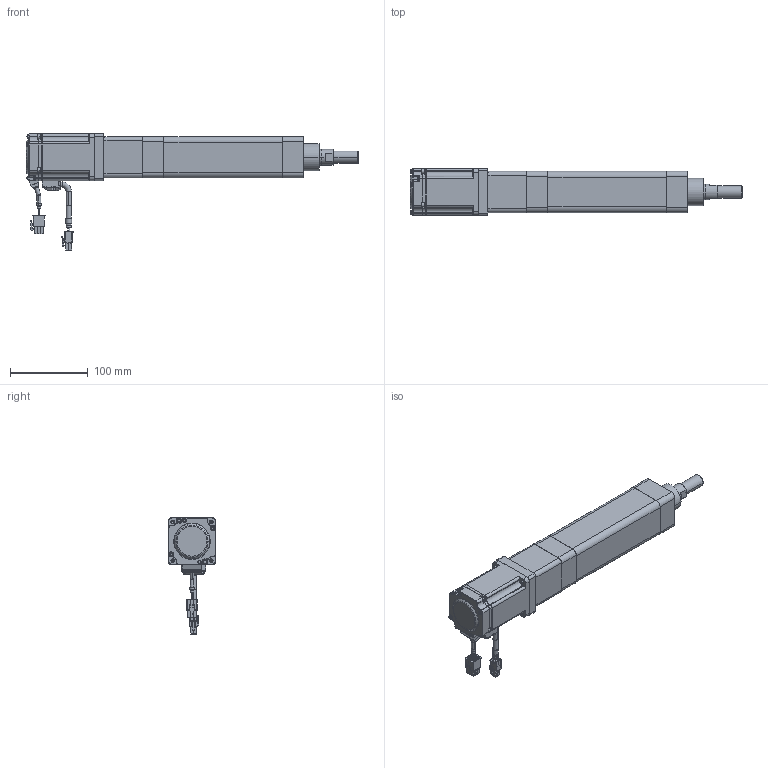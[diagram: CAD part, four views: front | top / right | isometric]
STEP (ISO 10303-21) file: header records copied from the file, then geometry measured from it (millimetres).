
FILE_DESCRIPTION (( 'STEP AP203' ), '1' );
FILE_NAME ('RKD40-D-FA-400W-B3.STEP', '2025-01-23T10:42:09', ( '' ), ( '' ), 'SwSTEP 2.0', 'SolidWorks 2024', '' );
FILE_SCHEMA (( 'CONFIG_CONTROL_DESIGN' ));
Length unit declared in the file: millimetre
Products named in the file (15): 复件 _MHMF042L1U2_1^复件 (2) 伺服电机60X60-400W_RKD40-D-FA-400W-B3; 复件 (2) 伺服电机60X60-400W^RKD40-D-FA-400W-B3; 复件 _Motor Connector_2_2^复件 (2) 伺服电机60X60-400W_RKD40-D-FA-400W-B3; 复件 联轴器座盖板040-017-1^RKD40-D-FA-400W-B3; 复件 _Cable Motor Top 04_2^复件 (2) 伺服电机60X60-400W_RKD40-D-FA-400W-B3; RKD40-D-FA-400W-B3; 复件 RKD-40-NEARCAP-PT^复件 RKD40-A_RKD40-D-FA-400W-B3; 复件 _MHMF Connector 9 Pin_A6_2^复件 (2) 伺服电机60X60-400W_RKD40-D-FA-400W-B3; 复件 _Cable Motor Bottom 04_2^复件 (2) 伺服电机60X60-400W_RKD40-D-FA-400W-B3; 复件 _Cable Brake Top 04_2^复件 (2) 伺服电机60X60-400W_RKD40-D-FA-400W-B3; 复件 _Cable Brake Bottom 04_2^复件 (2) 伺服电机60X60-400W_RKD40-D-FA-400W-B3; 复件 RKD-40-FARCAP-PT^复件 RKD40-A_RKD40-D-FA-400W-B3; 复件 联轴器座040-017-200W-400W^RKD40-D-FA-400W-B3; 复件 RKD-40-BASE-PT^复件 RKD40-A_RKD40-D-FA-400W-B3; 复件 RKD40-A^RKD40-D-FA-400W-B3
Assembly tree (14 placements, depth 3):
  RKD40-D-FA-400W-B3
    复件 RKD40-A^RKD40-D-FA-400W-B3
      复件 RKD-40-BASE-PT^复件 RKD40-A_RKD40-D-FA-400W-B3
      复件 RKD-40-FARCAP-PT^复件 RKD40-A_RKD40-D-FA-400W-B3
      复件 RKD-40-NEARCAP-PT^复件 RKD40-A_RKD40-D-FA-400W-B3
    复件 联轴器座040-017-200W-400W^RKD40-D-FA-400W-B3
    复件 联轴器座盖板040-017-1^RKD40-D-FA-400W-B3
    复件 (2) 伺服电机60X60-400W^RKD40-D-FA-400W-B3
      复件 _MHMF042L1U2_1^复件 (2) 伺服电机60X60-400W_RKD40-D-FA-400W-B3
      复件 _Cable Motor Bottom 04_2^复件 (2) 伺服电机60X60-400W_RKD40-D-FA-400W-B3
      复件 _Cable Motor Top 04_2^复件 (2) 伺服电机60X60-400W_RKD40-D-FA-400W-B3
      复件 _Motor Connector_2_2^复件 (2) 伺服电机60X60-400W_RKD40-D-FA-400W-B3
      复件 _Cable Brake Bottom 04_2^复件 (2) 伺服电机60X60-400W_RKD40-D-FA-400W-B3
      复件 _Cable Brake Top 04_2^复件 (2) 伺服电机60X60-400W_RKD40-D-FA-400W-B3
      复件 _MHMF Connector 9 Pin_A6_2^复件 (2) 伺服电机60X60-400W_RKD40-D-FA-400W-B3
Bounding box: 426 x 60 x 149.2 mm (x, y, z)
Volume: 774746.8 mm3; surface area: 180118.1 mm2
Topology: 17 solids, 17 shells, 1227 faces, 3080 edges, 1990 vertices
Faces by surface type: plane 607, cylinder 462, cone 104, torus 42, sphere 12
Entity records: 39718 total; most frequent: CARTESIAN_POINT 7966, DIRECTION 6479, ORIENTED_EDGE 6124, EDGE_CURVE 3062, AXIS2_PLACEMENT_3D 2309, VERTEX_POINT 1990, VECTOR 1861, LINE 1861
